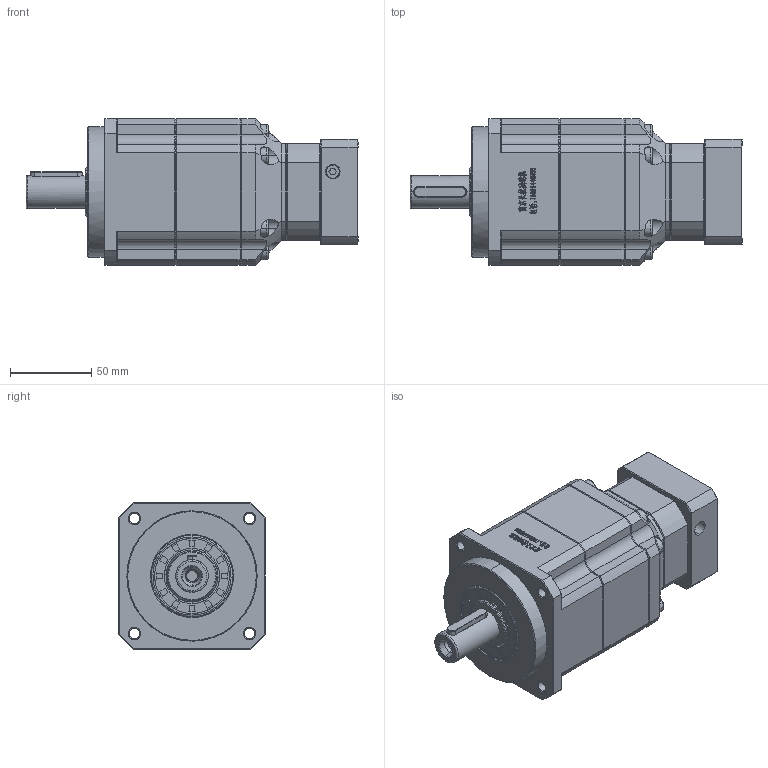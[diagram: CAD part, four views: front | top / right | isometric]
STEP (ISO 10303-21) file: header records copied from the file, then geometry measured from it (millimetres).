
FILE_DESCRIPTION (( 'STEP AP214' ), '1' );
FILE_NAME ('ZPB090-D20-L3-P1-14-60-75-M5.step', '2024-06-07T18:17:25', ( 'Windows 蚚誧' ), ( 'Organization' ), 'SwSTEP 2.0', 'SolidWorks 2016', '' );
FILE_SCHEMA (( 'AUTOMOTIVE_DESIGN' ));
Length unit declared in the file: millimetre
Products named in the file (1): ZPB090-D20-L3-P1-14-60-75-M5
Bounding box: 204 x 90 x 90 mm (x, y, z)
Surface area: 83038.8 mm2 (no closed solid volume)
Topology: 0 solids, 32 shells, 2179 faces, 5782 edges, 3671 vertices
Faces by surface type: plane 1115, bspline 381, cone 331, cylinder 328, torus 24
Entity records: 106845 total; most frequent: CARTESIAN_POINT 51811, ORIENTED_EDGE 11526, DIRECTION 8578, EDGE_CURVE 5782, VERTEX_POINT 3671, LINE 3316, VECTOR 3316, AXIS2_PLACEMENT_3D 2631
